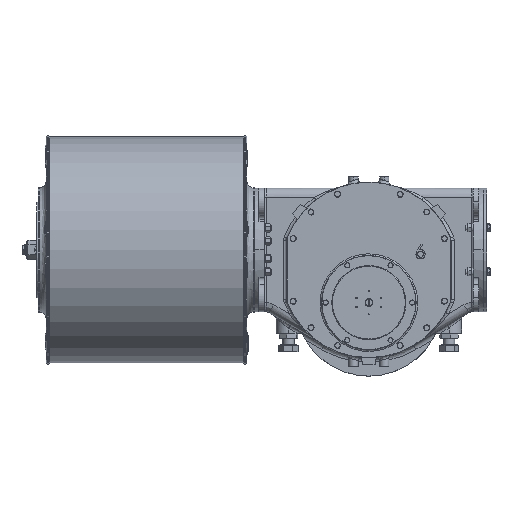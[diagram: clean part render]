
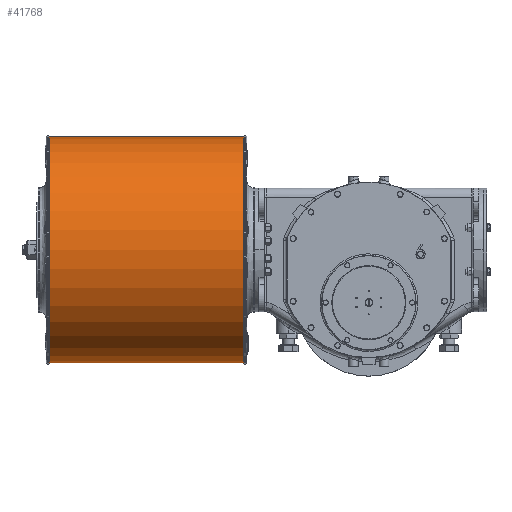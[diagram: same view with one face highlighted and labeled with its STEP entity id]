
A CAD part, top view. The second image highlights one B-rep face of the part: STEP entity #41768.
In plain terms, the highlighted cylindrical face has radius 366 mm (diameter 732 mm), a partial arc.
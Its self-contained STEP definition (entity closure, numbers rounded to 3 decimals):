
#796 = AXIS2_PLACEMENT_3D ( 'NONE', #35864, #26261, #71163 ) ;
#3698 = CARTESIAN_POINT ( 'NONE',  ( -1035., 537., 138. ) ) ;
#5866 = CARTESIAN_POINT ( 'NONE',  ( -1035., 537., 138. ) ) ;
#5944 = CARTESIAN_POINT ( 'NONE',  ( -405., 537., 138. ) ) ;
#8222 = ORIENTED_EDGE ( 'NONE', *, *, #50985, .T. ) ;
#10197 = DIRECTION ( 'NONE',  ( 1., 0., 0. ) ) ;
#11337 = LINE ( 'NONE', #5866, #44974 ) ;
#14706 = DIRECTION ( 'NONE',  ( 0., 1., 0. ) ) ;
#15059 = DIRECTION ( 'NONE',  ( 1., 0., 0. ) ) ;
#15258 = CARTESIAN_POINT ( 'NONE',  ( -405., -195., 138. ) ) ;
#16366 = EDGE_CURVE ( 'NONE', #33102, #52152, #64823, .T. ) ;
#16406 = LINE ( 'NONE', #67120, #58145 ) ;
#16468 = DIRECTION ( 'NONE',  ( 1., 0., 0. ) ) ;
#16611 = VERTEX_POINT ( 'NONE', #15258 ) ;
#19771 = ORIENTED_EDGE ( 'NONE', *, *, #24009, .T. ) ;
#19822 = CARTESIAN_POINT ( 'NONE',  ( -1035., -195., 138. ) ) ;
#21798 = CIRCLE ( 'NONE', #796, 366. ) ;
#24009 = EDGE_CURVE ( 'NONE', #52152, #16611, #16406, .T. ) ;
#24019 = AXIS2_PLACEMENT_3D ( 'NONE', #62735, #47051, #51443 ) ;
#26261 = DIRECTION ( 'NONE',  ( -1., 0., 0. ) ) ;
#33102 = VERTEX_POINT ( 'NONE', #3698 ) ;
#35864 = CARTESIAN_POINT ( 'NONE',  ( -405., 171., 138. ) ) ;
#36261 = CYLINDRICAL_SURFACE ( 'NONE', #39870, 366. ) ;
#39870 = AXIS2_PLACEMENT_3D ( 'NONE', #58135, #15059, #14706 ) ;
#41768 = ADVANCED_FACE ( 'NONE', ( #70204 ), #36261, .T. ) ;
#44974 = VECTOR ( 'NONE', #16468, 1000. ) ;
#47051 = DIRECTION ( 'NONE',  ( 1., 0., 0. ) ) ;
#48714 = EDGE_CURVE ( 'NONE', #33102, #69860, #11337, .T. ) ;
#48754 = EDGE_LOOP ( 'NONE', ( #51270, #19771, #8222, #52029 ) ) ;
#50985 = EDGE_CURVE ( 'NONE', #16611, #69860, #21798, .T. ) ;
#51270 = ORIENTED_EDGE ( 'NONE', *, *, #16366, .T. ) ;
#51443 = DIRECTION ( 'NONE',  ( 0., 1., 0. ) ) ;
#52029 = ORIENTED_EDGE ( 'NONE', *, *, #48714, .F. ) ;
#52152 = VERTEX_POINT ( 'NONE', #19822 ) ;
#58135 = CARTESIAN_POINT ( 'NONE',  ( -1035., 171., 138. ) ) ;
#58145 = VECTOR ( 'NONE', #10197, 1000. ) ;
#62735 = CARTESIAN_POINT ( 'NONE',  ( -1035., 171., 138. ) ) ;
#64823 = CIRCLE ( 'NONE', #24019, 366. ) ;
#67120 = CARTESIAN_POINT ( 'NONE',  ( -1035., -195., 138. ) ) ;
#69860 = VERTEX_POINT ( 'NONE', #5944 ) ;
#70204 = FACE_OUTER_BOUND ( 'NONE', #48754, .T. ) ;
#71163 = DIRECTION ( 'NONE',  ( 0., 1., 0. ) ) ;
